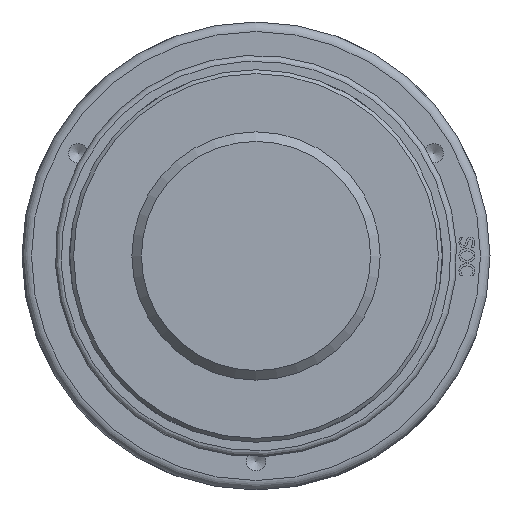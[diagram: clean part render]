
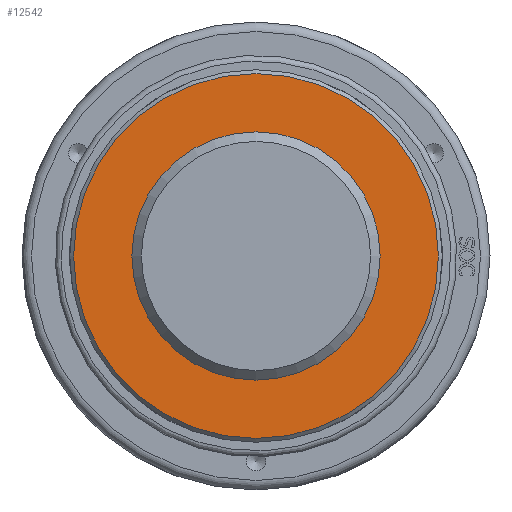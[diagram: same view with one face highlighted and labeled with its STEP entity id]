
A CAD part, front view. The second image highlights one B-rep face of the part: STEP entity #12542.
In plain terms, the highlighted planar face has unit normal (0, -1, 0) as drawn and (0, 1, 0) by its records, which use the part's own axes.
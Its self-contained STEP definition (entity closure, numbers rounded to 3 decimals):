
#90=CIRCLE('',#13197,95.5);
#92=CIRCLE('',#13201,61.753);
#175=FACE_BOUND('',#1667,.T.);
#413=PLANE('',#13200);
#898=FACE_OUTER_BOUND('',#1666,.T.);
#1666=EDGE_LOOP('',(#9912));
#1667=EDGE_LOOP('',(#9913));
#5606=VERTEX_POINT('',#19218);
#5620=VERTEX_POINT('',#19458);
#7157=EDGE_CURVE('',#5606,#5606,#90,.T.);
#7171=EDGE_CURVE('',#5620,#5620,#92,.T.);
#9912=ORIENTED_EDGE('',*,*,#7157,.F.);
#9913=ORIENTED_EDGE('',*,*,#7171,.T.);
#12542=ADVANCED_FACE('',(#898,#175),#413,.T.);
#13197=AXIS2_PLACEMENT_3D('',#19219,#14360,#14361);
#13200=AXIS2_PLACEMENT_3D('',#19457,#14366,#14367);
#13201=AXIS2_PLACEMENT_3D('',#19459,#14368,#14369);
#14360=DIRECTION('center_axis',(0.,-1.,0.));
#14361=DIRECTION('ref_axis',(1.,0.,0.));
#14366=DIRECTION('center_axis',(0.,1.,0.));
#14367=DIRECTION('ref_axis',(0.,0.,1.));
#14368=DIRECTION('center_axis',(0.,-1.,0.));
#14369=DIRECTION('ref_axis',(1.,0.,0.));
#19218=CARTESIAN_POINT('',(-95.5,65.,0.));
#19219=CARTESIAN_POINT('Origin',(0.,65.,0.));
#19457=CARTESIAN_POINT('Origin',(0.,65.,0.));
#19458=CARTESIAN_POINT('',(-61.753,65.,0.));
#19459=CARTESIAN_POINT('Origin',(0.,65.,0.));
